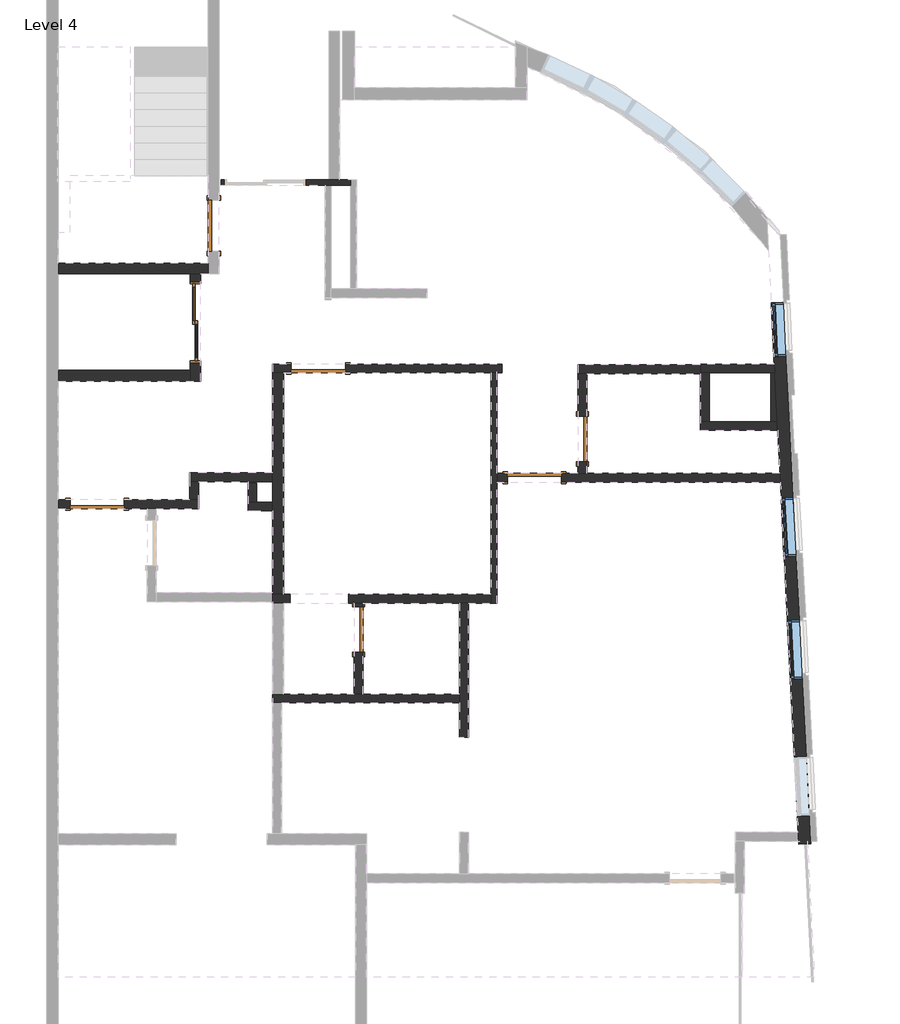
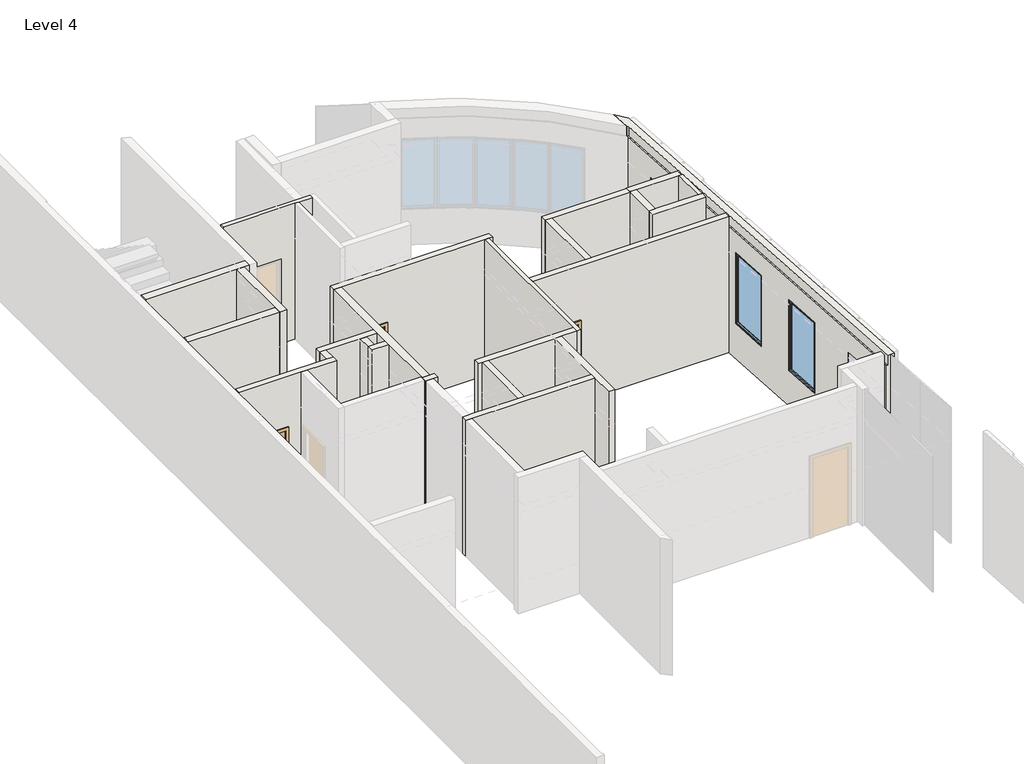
# One storey, part 3 of 5: 25 walls, 7 doors, 3 windows.
"""IFC4 building model written with IfcOpenShell, lengths in millimetres."""

from ifc_helpers import new_model, si_unit, frame, origin, place, context, project, spatial, polyline, circle_curve, outline, extrude, faceted_brep, transform, mapped, element, save
from ifc_brep_helpers import plane_surface, cylinder_surface, revolved_surface, advanced_brep
from components import m_single_flush_0762_x_2134mm_1533e4c5, m_single_flush_0762_x_2134mm_8c18b9de, m_single_flush_0864_x_2032mm_7823a673, m_single_flush_0915_x_2032mm_11c03dd0, m_single_flush_0915_x_2134mm_138fd904, sliding_door_2_panel_aus_f73f6a40, m_fixed_0915_x_1830mm_5d6e8bc1, m_fixed_1000_x_1830mm_2_3397196e

model = new_model("IFC4")

# Units and contexts
model_context = context("Model", 3, world=origin())
ifc_project = project(units=[si_unit("LENGTHUNIT", "METRE", prefix="MILLI")], contexts=[model_context])

# Site, building, storey
site = spatial("IfcSite", under=ifc_project)
building = spatial("IfcBuilding", under=site)
storey = spatial("IfcBuildingStorey", under=building, Name="Level 4", Elevation=15000.0)

# Doors
placement = place(None, origin())
m_single_flush_0762_x_2134mm_shape = m_single_flush_0762_x_2134mm_1533e4c5(model_context)
element("IfcDoor", 1, ObjectType="M_Single-Flush : 0762 x 2134mm", at=placement, inside=storey, context=model_context, shape_type="MappedRepresentation", body=[
    mapped(m_single_flush_0762_x_2134mm_shape, transform((8794.9578779, 5730.2927029, 15000.0), x_axis=(0.0, -1.0, 0.0), y_axis=(1.0, 0.0, 0.0), z_axis=(0.0, 0.0, 1.0))),
])
m_single_flush_0762_x_2134mm_2_shape = m_single_flush_0762_x_2134mm_8c18b9de(model_context)
element("IfcDoor", 2, ObjectType="M_Single-Flush : 0762 x 2134mm", at=placement, inside=storey, context=model_context, shape_type="MappedRepresentation", body=[
    mapped(m_single_flush_0762_x_2134mm_2_shape, transform((5014.9578779, 2515.8778064, 15000.0), x_axis=(0.0, 1.0, 0.0), y_axis=(-1.0, 0.0, 0.0), z_axis=(0.0, 0.0, 1.0))),
])
m_single_flush_0864_x_2032mm_shape = m_single_flush_0864_x_2032mm_7823a673(model_context)
element("IfcDoor", 3, ObjectType="M_Single-Flush : 0864 x 2032mm", at=placement, inside=storey, context=model_context, shape_type="MappedRepresentation", body=[
    mapped(m_single_flush_0864_x_2032mm_shape, transform((2571.8607589, 9328.8748746, 15000.0), x_axis=(0.0, -1.0, 0.0), y_axis=(1.0, 0.0, 0.0), z_axis=(0.0, 0.0, 1.0))),
])
m_single_flush_0915_x_2032mm_shape = m_single_flush_0915_x_2032mm_11c03dd0(model_context)
element("IfcDoor", 4, ObjectType="M_Single-Flush : 0915 x 2032mm", at=placement, inside=storey, context=model_context, shape_type="MappedRepresentation", body=[
    mapped(m_single_flush_0915_x_2032mm_shape, transform((7987.4578779, 5074.2927029, 15000.0), x_axis=(-1.0, 0.0, 0.0), y_axis=(0.0, -1.0, 0.0), z_axis=(0.0, 0.0, 1.0))),
])
m_single_flush_0915_x_2134mm_shape = m_single_flush_0915_x_2134mm_138fd904(model_context)
element("IfcDoor", 5, ObjectType="M_Single-Flush : 0915 x 2134mm", at=placement, inside=storey, context=model_context, shape_type="MappedRepresentation", body=[
    mapped(m_single_flush_0915_x_2134mm_shape, transform((607.4578696, 4631.8830582, 15000.0), x_axis=(-1.0, 0.0, 0.0), y_axis=(0.0, -1.0, 0.0), z_axis=(0.0, 0.0, 1.0))),
])
element("IfcDoor", 6, ObjectType="M_Single-Flush : 0915 x 2134mm", at=placement, inside=storey, context=model_context, shape_type="MappedRepresentation", body=[
    mapped(m_single_flush_0915_x_2134mm_shape, transform((4337.4578779, 6919.2927825, 15000.0), x_axis=(-1.0, 0.0, 0.0), y_axis=(0.0, -1.0, 0.0), z_axis=(0.0, 0.0, 1.0))),
])
sliding_door_2_panel_aus_shape = sliding_door_2_panel_aus_f73f6a40(model_context)
element("IfcDoor", 7, ObjectType="Sliding Door - 2 Panel (AUS) : elavator door", at=placement, inside=storey, context=model_context, shape_type="MappedRepresentation", body=[
    mapped(sliding_door_2_panel_aus_shape, transform((2260.0654712, 7782.6328884, 15000.0), x_axis=(0.0, -1.0, 0.0), y_axis=(1.0, 0.0, 0.0), z_axis=(0.0, 0.0, 1.0))),
])

# Walls
element("IfcWall", 8, ObjectType="Generic - 15cm-granit&gypsum", at=placement, inside=storey, context=model_context, shape_type="SweptSolid", body=[
    extrude(outline(polyline([(5349.2927029, 17134.0), (5349.2927029, 15000.0), (5149.2927029, 15000.0), (5149.2927029, 18500.0), (6830.3684627, 18500.0), (6830.3684627, 15000.0), (6111.2927029, 15000.0), (6111.2927029, 17134.0), (5349.2927029, 17134.0)])), frame((8719.9578779, 0.0, 0.0), z_axis=(1.0, 0.0, 0.0), x_axis=(0.0, 1.0, 0.0)), (0.0, 0.0, 1.0), 150.0),
])
element("IfcWall", 9, ObjectType="Generic - 15cm-gypsu-2boith", at=placement, inside=storey, context=model_context, shape_type="Brep", body=[
    faceted_brep([(12034.2942913, 6994.2927825, 15000.0), (10782.6929286, 6994.2927825, 15000.0), (10782.6929286, 6994.2927825, 18500.0), (12034.2942913, 6994.2927825, 18500.0), (12041.9294162, 6844.2927825, 15000.0), (12041.9294162, 6844.2927825, 18500.0), (11974.9265269, 6844.2927825, 18500.0), (10938.049349, 6844.2927825, 18500.0), (10788.049349, 6844.2927825, 18500.0), (10782.6929286, 6844.2927825, 18500.0), (10782.6929286, 6844.2927825, 15000.0), (10788.049349, 6844.2927825, 15000.0), (10938.049349, 6844.2927825, 15000.0), (11974.9265269, 6844.2927825, 15000.0), (10782.6929286, 6980.3684627, 15000.0), (10782.6929286, 6980.3684627, 18500.0)], [[[0, 1, 2, 3]], [[4, 5, 6, 7, 8, 9, 10, 11, 12, 13]], [[1, 0, 4, 13, 12, 11, 10, 14]], [[2, 1, 14, 10, 9, 15]], [[3, 2, 15, 9, 8, 7, 6, 5]], [[0, 3, 5, 4]]]),
])
element("IfcWall", 10, ObjectType="Generic - 15cm-granit&gypsum", at=placement, inside=storey, context=model_context, shape_type="Brep", body=[
    faceted_brep([(7529.9578779, 5149.2927029, 17032.0), (7529.9578779, 5149.2927029, 15000.0), (7349.9578779, 5149.2927029, 15000.0), (7349.9578779, 5149.2927029, 18500.0), (8719.9578779, 5149.2927029, 18500.0), (8869.9578779, 5149.2927029, 18500.0), (12128.2063311, 5149.2927029, 18500.0), (12128.2063311, 5149.2927029, 15000.0), (8869.9578779, 5149.2927029, 15000.0), (8719.9578779, 5149.2927029, 15000.0), (8444.9578779, 5149.2927029, 15000.0), (8444.9578779, 5149.2927029, 17032.0), (7349.9578779, 4999.2927029, 15000.0), (7529.9578779, 4999.2927029, 15000.0), (7529.9578779, 4999.2927029, 17032.0), (8444.9578779, 4999.2927029, 17032.0), (8444.9578779, 4999.2927029, 15000.0), (12135.8414559, 4999.2927029, 15000.0), (12135.8414559, 4999.2927029, 18500.0), (7349.9578779, 4999.2927029, 18500.0)], [[[0, 1, 2, 3, 4, 5, 6, 7, 8, 9, 10, 11]], [[12, 13, 14, 15, 16, 17, 18, 19]], [[2, 1, 13, 12]], [[10, 9, 8, 7, 17, 16]], [[6, 5, 4, 3, 19, 18]], [[7, 6, 18, 17]], [[3, 2, 12, 19]], [[14, 13, 1, 0]], [[15, 14, 0, 11]], [[16, 15, 11, 10]]]),
])
element("IfcWall", 11, ObjectType="Generic - 10cm-gypsu-2boith", at=placement, inside=storey, context=model_context, shape_type="Brep", body=[
    faceted_brep([(7249.9578779, 6844.2927825, 15000.0), (7249.9578779, 3106.8778064, 15000.0), (7249.9578779, 2956.8778064, 15000.0), (7249.9578779, 2956.8778064, 18500.0), (7249.9578779, 3106.8778064, 18500.0), (7249.9578779, 6844.2927825, 18500.0), (7349.9578779, 6844.2927825, 15000.0), (7349.9578779, 6844.2927825, 18500.0), (7349.9578779, 5149.2927029, 18500.0), (7349.9578779, 4999.2927029, 18500.0), (7349.9578779, 2956.8778064, 18500.0), (7349.9578779, 2956.8778064, 15000.0), (7349.9578779, 4999.2927029, 15000.0), (7349.9578779, 5149.2927029, 15000.0)], [[[0, 1, 2, 3, 4, 5]], [[6, 7, 8, 9, 10, 11, 12, 13]], [[2, 1, 0, 6, 13, 12, 11]], [[5, 4, 3, 10, 9, 8, 7]], [[3, 2, 11, 10]], [[0, 5, 7, 6]]]),
])
element("IfcWall", 12, ObjectType="Generic - 15cm-granit&gypsum", at=placement, inside=storey, context=model_context, shape_type="Brep", body=[
    faceted_brep([(7249.9578779, 3106.8778064, 15000.0), (4849.9578779, 3106.8778064, 15000.0), (4849.9578779, 3106.8778064, 18500.0), (7249.9578779, 3106.8778064, 18500.0), (7249.9578779, 2956.8778064, 15000.0), (7249.9578779, 2956.8778064, 18500.0), (6869.9578779, 2956.8778064, 18500.0), (6719.9578779, 2956.8778064, 18500.0), (5089.9578779, 2956.8778064, 18500.0), (4939.9578779, 2956.8778064, 18500.0), (4849.9578779, 2956.8778064, 18500.0), (4849.9578779, 2956.8778064, 15000.0), (4939.9578779, 2956.8778064, 15000.0), (5089.9578779, 2956.8778064, 15000.0), (6719.9578779, 2956.8778064, 15000.0), (6869.9578779, 2956.8778064, 15000.0)], [[[0, 1, 2, 3]], [[4, 5, 6, 7, 8, 9, 10, 11, 12, 13, 14, 15]], [[1, 0, 4, 15, 14, 13, 12, 11]], [[2, 1, 11, 10]], [[3, 2, 10, 9, 8, 7, 6, 5]], [[0, 3, 5, 4]]]),
])
element("IfcWall", 13, ObjectType="Generic - 15cm-granit&gypsum", at=placement, inside=storey, context=model_context, shape_type="Brep", body=[
    faceted_brep([(6719.9578779, 1426.8778064, 15000.0), (5089.9578779, 1426.8778064, 15000.0), (4939.9578779, 1426.8778064, 15000.0), (3749.9578779, 1426.8778064, 15000.0), (3569.9578779, 1426.8778064, 15000.0), (3569.9578779, 1426.8778064, 18500.0), (3749.9578779, 1426.8778064, 18500.0), (4939.9578779, 1426.8778064, 18500.0), (5089.9578779, 1426.8778064, 18500.0), (6719.9578779, 1426.8778064, 18500.0), (6719.9578779, 1276.8778064, 15000.0), (6719.9578779, 1276.8778064, 18500.0), (3719.9578779, 1276.8778064, 18500.0), (3569.9578779, 1276.8778064, 18500.0), (3569.9578779, 1276.8778064, 15000.0), (3719.9578779, 1276.8778064, 15000.0)], [[[0, 1, 2, 3, 4, 5, 6, 7, 8, 9]], [[10, 11, 12, 13, 14, 15]], [[4, 3, 2, 1, 0, 10, 15, 14]], [[9, 8, 7, 6, 5, 13, 12, 11]], [[0, 9, 11, 10]], [[5, 4, 14, 13]]]),
])
element("IfcWall", 14, ObjectType="Generic - 15cm-granit&gypsum", at=placement, inside=storey, context=model_context, shape_type="Brep", body=[
    faceted_brep([(6719.9578779, 2956.8778064, 15000.0), (6719.9578779, 1426.8778064, 15000.0), (6719.9578779, 1276.8778064, 15000.0), (6719.9578779, 696.0452702, 15000.0), (6719.9578779, 696.0452702, 18500.0), (6719.9578779, 1276.8778064, 18500.0), (6719.9578779, 1426.8778064, 18500.0), (6719.9578779, 2956.8778064, 18500.0), (6869.9578779, 2956.8778064, 15000.0), (6869.9578779, 2956.8778064, 18500.0), (6869.9578779, 696.0452702, 18500.0), (6869.9578779, 696.0452702, 15000.0)], [[[0, 1, 2, 3, 4, 5, 6, 7]], [[8, 9, 10, 11]], [[3, 2, 1, 0, 8, 11]], [[4, 3, 11, 10]], [[7, 6, 5, 4, 10, 9]], [[0, 7, 9, 8]]]),
])
element("IfcWall", 15, ObjectType="Generic - 18cm-gypsu-2boith 2", at=placement, inside=storey, context=model_context, shape_type="Brep", body=[
    faceted_brep([(3569.9578779, 6844.2927825, 15000.0), (3569.9578779, 5156.8860701, 15000.0), (3569.9578779, 5006.8860701, 15000.0), (3569.9578779, 4666.8864855, 15000.0), (3569.9578779, 4516.8864855, 15000.0), (3569.9578779, 3106.8778064, 15000.0), (3569.9578779, 3106.8778064, 18500.0), (3569.9578779, 4516.8864855, 18500.0), (3569.9578779, 4666.8864855, 18500.0), (3569.9578779, 5006.8860701, 18500.0), (3569.9578779, 5156.8860701, 18500.0), (3569.9578779, 6844.2927825, 18500.0), (3749.9578779, 6844.2927825, 15000.0), (3749.9578779, 6844.2927825, 18500.0), (3749.9578779, 3106.8778064, 18500.0), (3749.9578779, 3106.8778064, 15000.0)], [[[0, 1, 2, 3, 4, 5, 6, 7, 8, 9, 10, 11]], [[12, 13, 14, 15]], [[5, 4, 3, 2, 1, 0, 12, 15]], [[11, 10, 9, 8, 7, 6, 14, 13]], [[6, 5, 15, 14]], [[0, 11, 13, 12]]]),
])
element("IfcWall", 16, ObjectType="Generic - 10cm-gypsu-2boith", at=placement, inside=storey, context=model_context, shape_type="Brep", body=[
    faceted_brep([(2699.9587442, 10106.8748959, 15000.0), (2699.9587442, 10106.8748959, 18500.0), (4519.9587688, 10106.8748959, 18500.0), (4699.9587688, 10106.8748959, 18500.0), (4879.9402277, 10106.8748959, 18500.0), (4879.9402277, 10106.8748959, 15000.0), (4699.9587688, 10106.8748959, 15000.0), (4519.9587688, 10106.8748959, 15000.0), (4129.6769958, 10106.8748959, 15000.0), (4129.6769958, 10106.8748959, 17183.0), (2749.6769958, 10106.8748959, 17183.0), (2749.6769958, 10106.8748959, 15000.0), (2699.9587442, 10006.8748959, 18500.0), (2699.9587442, 10006.8748959, 15000.0), (2749.6769958, 10006.8748959, 15000.0), (2749.6769958, 10006.8748959, 17183.0), (4129.6769958, 10006.8748959, 17183.0), (4129.6769958, 10006.8748959, 15000.0), (4449.2779066, 10006.8748959, 15000.0), (4549.2779066, 10006.8748959, 15000.0), (4879.9402277, 10006.8748959, 15000.0), (4879.9402277, 10006.8748959, 18500.0), (4549.2779066, 10006.8748959, 18500.0), (4449.2779066, 10006.8748959, 18500.0)], [[[0, 1, 2, 3, 4, 5, 6, 7, 8, 9, 10, 11]], [[12, 13, 14, 15, 16, 17, 18, 19, 20, 21, 22, 23]], [[13, 0, 11, 14]], [[5, 20, 19, 18, 17, 8, 7, 6]], [[1, 0, 13, 12]], [[4, 3, 2, 1, 12, 23, 22, 21]], [[5, 4, 21, 20]], [[16, 9, 8, 17]], [[9, 16, 15, 10]], [[10, 15, 14, 11]]]),
])
element("IfcWall", 17, ObjectType="Generic - 18cm-gypsu-2boith 2", at=placement, inside=storey, context=model_context, shape_type="SweptSolid", body=[
    extrude(outline(polyline([(-50.0421304, 8696.8748746), (2481.8607589, 8696.8748746), (2481.8607589, 8516.8748746), (-50.0421304, 8516.8748746), (-50.0421304, 8696.8748746)])), frame((0.0, 0.0, 15000.0), z_axis=(0.0, 0.0, 1.0), x_axis=(1.0, 0.0, 0.0)), (0.0, 0.0, 1.0), 3500.0),
])
element("IfcWall", 18, ObjectType="Generic - 18cm-gypsu-2boith 2", at=placement, inside=storey, context=model_context, shape_type="Brep", body=[
    faceted_brep([(2170.0654712, 6706.8748838, 18500.0), (2170.0654712, 6886.8748838, 18500.0), (2170.0654712, 8506.8748906, 18500.0), (2170.0654712, 8506.8748906, 15000.0), (2170.0654712, 8386.8748872, 15000.0), (2170.0654712, 8386.8748872, 17183.0), (2170.0654712, 7006.8748872, 17183.0), (2170.0654712, 7006.8748872, 15000.0), (2170.0654712, 6886.8748838, 15000.0), (2170.0654712, 6706.8748838, 15000.0), (2350.0654712, 8506.8748906, 18500.0), (2350.0654712, 6706.8748838, 18500.0), (2350.0654712, 6706.8748838, 15000.0), (2350.0654712, 7006.8748872, 15000.0), (2350.0654712, 7006.8748872, 17183.0), (2350.0654712, 8386.8748872, 17183.0), (2350.0654712, 8386.8748872, 15000.0), (2350.0654712, 8506.8748906, 15000.0)], [[[0, 1, 2, 3, 4, 5, 6, 7, 8, 9]], [[10, 11, 12, 13, 14, 15, 16, 17]], [[3, 17, 16, 4]], [[12, 9, 8, 7, 13]], [[2, 1, 0, 11, 10]], [[3, 2, 10, 17]], [[0, 9, 12, 11]], [[15, 5, 4, 16]], [[5, 15, 14, 6]], [[6, 14, 13, 7]]]),
])
element("IfcWall", 19, ObjectType="Generic - 18cm-gypsu-2boith 2", at=placement, inside=storey, context=model_context, shape_type="SweptSolid", body=[
    extrude(outline(polyline([(-50.0421304, 6886.8748838), (2170.0654712, 6886.8748838), (2170.0654712, 6706.8748838), (-50.0421304, 6706.8748838), (-50.0421304, 6886.8748838)])), frame((0.0, 0.0, 15000.0), z_axis=(0.0, 0.0, 1.0), x_axis=(1.0, 0.0, 0.0)), (0.0, 0.0, 1.0), 3500.0),
])
element("IfcWall", 20, ObjectType="Generic - 15cm-granit&gypsum", at=placement, inside=storey, context=model_context, shape_type="Brep", body=[
    faceted_brep([(12077.3702251, 6025.0705769, 15000.0), (12074.9265269, 6025.0705769, 15000.0), (11974.9265269, 6025.0705769, 15000.0), (10938.049349, 6025.0705769, 15000.0), (10788.049349, 6025.0705769, 15000.0), (10788.049349, 6025.0705769, 18500.0), (10938.049349, 6025.0705769, 18500.0), (11974.9265269, 6025.0705769, 18500.0), (12074.9265269, 6025.0705769, 18500.0), (12077.3702251, 6025.0705769, 18500.0), (12077.3702251, 5875.0705769, 15000.0), (12077.3702251, 5875.0705769, 18500.0), (10788.049349, 5875.0705769, 18500.0), (10788.049349, 5875.0705769, 15000.0)], [[[0, 1, 2, 3, 4, 5, 6, 7, 8, 9]], [[10, 11, 12, 13]], [[4, 3, 2, 1, 0, 10, 13]], [[9, 8, 7, 6, 5, 12, 11]], [[0, 9, 11, 10]], [[5, 4, 13, 12]]]),
])
element("IfcWall", 21, ObjectType="Generic - 15cm-granit&gypsum", at=placement, inside=storey, context=model_context, shape_type="SweptSolid", body=[
    extrude(outline(polyline([(10938.049349, 6844.2927825), (10938.049349, 6025.0705769), (10788.049349, 6025.0705769), (10788.049349, 6844.2927825), (10938.049349, 6844.2927825)])), frame((0.0, 0.0, 15000.0), z_axis=(0.0, 0.0, 1.0), x_axis=(1.0, 0.0, 0.0)), (0.0, 0.0, 1.0), 3500.0),
])
element("IfcWall", 22, ObjectType="Generic - 10cm-gypsu-2boith", at=placement, inside=storey, context=model_context, shape_type="Brep", body=[
    faceted_brep([(12074.9265269, 6025.0705769, 15000.0), (12074.9265269, 6844.2927825, 15000.0), (12074.9265269, 6844.2927825, 18500.0), (12074.9265269, 6025.0705769, 18500.0), (11974.9265269, 6025.0705769, 15000.0), (11974.9265269, 6025.0705769, 18500.0), (11974.9265269, 6844.2927825, 18500.0), (11974.9265269, 6844.2927825, 15000.0), (12041.9294162, 6844.2927825, 15000.0), (12041.9294162, 6844.2927825, 18500.0)], [[[0, 1, 2, 3]], [[4, 5, 6, 7]], [[1, 0, 4, 7, 8]], [[3, 2, 9, 6, 5]], [[0, 3, 5, 4]], [[2, 1, 8, 7, 6, 9]]]),
])
element("IfcWall", 23, ObjectType="Generic - 15cm-granit&gypsum", at=placement, inside=storey, context=model_context, shape_type="SweptSolid", body=[
    extrude(outline(polyline([(2956.8778064, 15000.0), (2896.8778064, 15000.0), (2896.8778064, 17134.0), (2134.8778064, 17134.0), (2134.8778064, 15000.0), (1426.8778064, 15000.0), (1426.8778064, 18500.0), (2956.8778064, 18500.0), (2956.8778064, 15000.0)])), frame((4939.9578779, 0.0, 0.0), z_axis=(1.0, 0.0, 0.0), x_axis=(0.0, 1.0, 0.0)), (0.0, 0.0, 1.0), 150.0),
])
element("IfcWall", 24, ObjectType="Generic - 15cm-granit&gypsum", at=placement, inside=storey, context=model_context, shape_type="Brep", body=[
    faceted_brep([(-50.0421304, 4556.8830582, 15000.0), (149.9578696, 4556.8830582, 15000.0), (149.9578696, 4556.8830582, 17134.0), (1064.9578696, 4556.8830582, 17134.0), (1064.9578696, 4556.8830582, 15000.0), (1449.9578776, 4556.8830582, 15000.0), (1599.9578776, 4556.8830582, 15000.0), (2319.9578779, 4556.8830582, 15000.0), (2319.9578779, 4556.8830582, 18500.0), (1599.9578776, 4556.8830582, 18500.0), (1449.9578776, 4556.8830582, 18500.0), (-50.0421304, 4556.8830582, 18500.0), (149.9578696, 4706.8830582, 17134.0), (149.9578696, 4706.8830582, 15000.0), (-50.0421304, 4706.8830582, 15000.0), (-50.0421304, 4706.8830582, 18500.0), (2169.9578779, 4706.8830582, 18500.0), (2319.9578779, 4706.8830582, 18500.0), (2319.9578779, 4706.8830582, 15000.0), (2169.9578779, 4706.8830582, 15000.0), (1064.9578696, 4706.8830582, 15000.0), (1064.9578696, 4706.8830582, 17134.0)], [[[0, 1, 2, 3, 4, 5, 6, 7, 8, 9, 10, 11]], [[12, 13, 14, 15, 16, 17, 18, 19, 20, 21]], [[14, 13, 1, 0]], [[20, 19, 18, 7, 6, 5, 4]], [[11, 10, 9, 8, 17, 16, 15]], [[0, 11, 15, 14]], [[8, 7, 18, 17]], [[2, 1, 13, 12]], [[3, 2, 12, 21]], [[4, 3, 21, 20]]]),
])
element("IfcWall", 25, ObjectType="Generic - 15cm-granit&gypsum", at=placement, inside=storey, context=model_context, shape_type="Brep", body=[
    faceted_brep([(2169.9578779, 5006.8860701, 15000.0), (2319.9578779, 5006.8860701, 15000.0), (3569.9578779, 5006.8860701, 15000.0), (3569.9578779, 5006.8860701, 18500.0), (2319.9578779, 5006.8860701, 18500.0), (2169.9578779, 5006.8860701, 18500.0), (2169.9578779, 5156.8860701, 15000.0), (2169.9578779, 5156.8860701, 18500.0), (3569.9578779, 5156.8860701, 18500.0), (3569.9578779, 5156.8860701, 15000.0)], [[[0, 1, 2, 3, 4, 5]], [[6, 7, 8, 9]], [[2, 1, 0, 6, 9]], [[5, 4, 3, 8, 7]], [[0, 5, 7, 6]], [[3, 2, 9, 8]]]),
])
element("IfcWall", 26, ObjectType="Generic - 15cm-granit&gypsum", at=placement, inside=storey, context=model_context, shape_type="SweptSolid", body=[
    extrude(outline(polyline([(2319.9578779, 5006.8860701), (2319.9578779, 4706.8830582), (2169.9578779, 4706.8830582), (2169.9578779, 5006.8860701), (2319.9578779, 5006.8860701)])), frame((0.0, 0.0, 15000.0), z_axis=(0.0, 0.0, 1.0), x_axis=(1.0, 0.0, 0.0)), (0.0, 0.0, 1.0), 3500.0),
])
element("IfcWall", 27, ObjectType="Generic - 15cm-granit&gypsum", at=placement, inside=storey, context=model_context, shape_type="Brep", body=[
    faceted_brep([(3149.9574416, 4516.8864855, 15000.0), (3569.9578779, 4516.8864855, 15000.0), (3569.9578779, 4516.8864855, 18500.0), (3149.9574416, 4516.8864855, 18500.0), (3149.9574416, 4666.8864855, 15000.0), (3149.9574416, 4666.8864855, 18500.0), (3299.9574416, 4666.8864855, 18500.0), (3569.9578779, 4666.8864855, 18500.0), (3569.9578779, 4666.8864855, 15000.0), (3299.9574416, 4666.8864855, 15000.0)], [[[0, 1, 2, 3]], [[4, 5, 6, 7, 8, 9]], [[1, 0, 4, 9, 8]], [[3, 2, 7, 6, 5]], [[2, 1, 8, 7]], [[0, 3, 5, 4]]]),
])
element("IfcWall", 28, ObjectType="Generic - 15cm-granit&gypsum", at=placement, inside=storey, context=model_context, shape_type="SweptSolid", body=[
    extrude(outline(polyline([(3149.9574416, 4666.8864855), (3149.9574416, 4986.8860701), (3299.9574416, 4986.8860701), (3299.9574416, 4666.8864855), (3149.9574416, 4666.8864855)])), frame((0.0, 0.0, 15000.0), z_axis=(0.0, 0.0, 1.0), x_axis=(1.0, 0.0, 0.0)), (0.0, 0.0, 1.0), 3500.0),
])
element("IfcWall", 29, ObjectType="Generic - 15cm-gypsu-2boith", at=placement, inside=storey, context=model_context, shape_type="Brep", body=[
    faceted_brep([(3879.9578779, 6994.2927825, 17134.0), (3879.9578779, 6994.2927825, 15000.0), (3569.9578779, 6994.2927825, 15000.0), (3569.9578779, 6994.2927825, 18500.0), (7439.9578779, 6994.2927825, 18500.0), (7439.9578779, 6994.2927825, 15000.0), (4794.9578779, 6994.2927825, 15000.0), (4794.9578779, 6994.2927825, 17134.0), (3569.9578779, 6844.2927825, 15000.0), (3749.9578779, 6844.2927825, 15000.0), (3879.9578779, 6844.2927825, 15000.0), (3879.9578779, 6844.2927825, 17134.0), (4794.9578779, 6844.2927825, 17134.0), (4794.9578779, 6844.2927825, 15000.0), (7249.9578779, 6844.2927825, 15000.0), (7349.9578779, 6844.2927825, 15000.0), (7439.9578779, 6844.2927825, 15000.0), (7439.9578779, 6844.2927825, 18500.0), (7349.9578779, 6844.2927825, 18500.0), (7249.9578779, 6844.2927825, 18500.0), (3749.9578779, 6844.2927825, 18500.0), (3569.9578779, 6844.2927825, 18500.0)], [[[0, 1, 2, 3, 4, 5, 6, 7]], [[8, 9, 10, 11, 12, 13, 14, 15, 16, 17, 18, 19, 20, 21]], [[6, 5, 16, 15, 14, 13]], [[2, 1, 10, 9, 8]], [[4, 3, 21, 20, 19, 18, 17]], [[5, 4, 17, 16]], [[11, 10, 1, 0]], [[12, 11, 0, 7]], [[13, 12, 7, 6]], [[3, 2, 8, 21]]]),
])
element("IfcWall", 30, ObjectType="Generic - 15cm-granit&gypsum", at=placement, inside=storey, context=model_context, shape_type="Brep", body=[
    faceted_brep([(8719.9578779, 6830.3684627, 15000.0), (8869.9578779, 6830.3684627, 15000.0), (10782.6929286, 6830.3684627, 15000.0), (10782.6929286, 6830.3684627, 18500.0), (8869.9578779, 6830.3684627, 18500.0), (8719.9578779, 6830.3684627, 18500.0), (8719.9578779, 6980.3684627, 15000.0), (8719.9578779, 6980.3684627, 18500.0), (10782.6929286, 6980.3684627, 18500.0), (10782.6929286, 6980.3684627, 15000.0), (10782.6929286, 6844.2927825, 15000.0), (10782.6929286, 6844.2927825, 18500.0)], [[[0, 1, 2, 3, 4, 5]], [[6, 7, 8, 9]], [[2, 1, 0, 6, 9, 10]], [[3, 2, 10, 9, 8, 11]], [[5, 4, 3, 11, 8, 7]], [[0, 5, 7, 6]]]),
])
element("IfcWall", 31, ObjectType="Generic - 15cm-granit&gypsum", at=placement, inside=storey, context=model_context, shape_type="Brep", body=[
    faceted_brep([(3859.9578779, 3106.8778064, 15000.0), (3749.9578779, 3106.8778064, 15000.0), (3569.9578779, 3106.8778064, 15000.0), (3569.9578779, 3106.8778064, 18500.0), (3749.9578779, 3106.8778064, 18500.0), (3859.9578779, 3106.8778064, 18500.0), (3859.9578779, 2956.8778064, 15000.0), (3859.9578779, 2956.8778064, 18500.0), (3749.9578779, 2956.8778064, 18500.0), (3569.9578779, 2956.8778064, 18500.0), (3569.9578779, 2956.8778064, 15000.0), (3749.9578779, 2956.8778064, 15000.0)], [[[0, 1, 2, 3, 4, 5]], [[6, 7, 8, 9, 10, 11]], [[2, 1, 0, 6, 11, 10]], [[5, 4, 3, 9, 8, 7]], [[0, 5, 7, 6]], [[3, 2, 10, 9]]]),
])
element("IfcWall", 32, ObjectType="Generic - 20cm-gypsum", at=placement, inside=storey, context=model_context, shape_type="AdvancedBrep", body=[
    advanced_brep(
    [(11908.3121492, 9469.3435074, 15000.0), (11936.5482631, 8914.6155682, 15000.0), (12034.2942913, 6994.2927825, 15000.0), (12041.9294162, 6844.2927825, 15000.0), (12128.2063311, 5149.2927029, 15000.0), (12135.8414559, 4999.2927029, 15000.0), (12446.8232818, -1110.2699756, 15000.0), (12446.8232818, -1110.2699756, 18259.0), (11936.5482631, 8914.6155682, 18259.0), (11933.8152789, 8968.3078963, 18259.0), (11933.8152789, 8968.3078963, 18500.0), (11908.3121492, 9469.3435074, 18500.0), (11908.3121492, 9469.3435074, 17745.0), (11910.4512496, 9427.3186475, 17745.0), (11910.4512496, 9427.3186475, 17695.0), (11908.3121492, 9469.3435074, 17695.0), (11908.3121492, 9469.3435074, 15925.0), (11910.4512496, 9427.3186475, 15925.0), (11910.4512496, 9427.3186475, 15875.0), (11908.3121492, 9469.3435074, 15875.0), (12422.6623613, -635.6034658, 15900.0), (12371.8273404, 363.1035987, 15900.0), (12371.8273404, 363.1035987, 17730.0), (12422.6623613, -635.6034658, 17730.0), (12305.2334631, 1671.4098532, 15900.0), (12254.3984422, 2670.1169177, 15900.0), (12254.3984422, 2670.1169177, 17730.0), (12305.2334631, 1671.4098532, 17730.0), (12200.0049698, 3738.7334766, 15900.0), (12149.1699489, 4737.4405411, 15900.0), (12149.1699489, 4737.4405411, 17730.0), (12200.0049698, 3738.7334766, 17730.0), (12028.2494319, 7113.0503572, 15900.0), (11981.7353878, 8026.8673212, 15900.0), (11981.7353878, 8026.8673212, 17730.0), (12028.2494319, 7113.0503572, 17730.0), (12646.5646947, -1100.1029714, 15000.0), (12122.2974145, 9199.675158, 15000.0), (12122.2974145, 9199.675158, 15875.0), (12124.5482533, 9155.45508, 15875.0), (12124.5482533, 9155.45508, 15925.0), (12122.2974145, 9199.675158, 15925.0), (12122.2974145, 9199.675158, 17695.0), (12124.5482533, 9155.45508, 17695.0), (12124.5482533, 9155.45508, 17745.0), (12122.2974145, 9199.675158, 17745.0), (12122.2974145, 9199.675158, 18500.0), (12646.5646947, -1100.1029714, 18500.0), (12571.5687533, 373.2706029, 15900.0), (12622.4037742, -625.4364616, 15900.0), (12622.4037742, -625.4364616, 17730.0), (12571.5687533, 373.2706029, 17730.0), (12454.1398551, 2680.2839218, 15900.0), (12504.974876, 1681.5768573, 15900.0), (12504.974876, 1681.5768573, 17730.0), (12454.1398551, 2680.2839218, 17730.0), (12348.9113618, 4747.6075453, 15900.0), (12399.7463827, 3748.9004808, 15900.0), (12399.7463827, 3748.9004808, 17730.0), (12348.9113618, 4747.6075453, 17730.0), (12181.4768007, 8037.0343254, 15900.0), (12227.9908448, 7123.2173614, 15900.0), (12227.9908448, 7123.2173614, 17730.0), (12181.4768007, 8037.0343254, 17730.0), (12476.7844937, -1108.7449249, 18500.0), (12476.7844937, -1108.7449249, 18259.0), (11966.0468245, 8925.2298708, 18500.0), (11966.0468245, 8925.2298708, 18259.0)],
    [
        (0, 1),
        (1, 2),
        (2, 3),
        (3, 4),
        (4, 5),
        (5, 6),
        (6, 7),
        (7, 8),
        (8, 9),
        (9, 10),
        (10, 11),
        (11, 12),
        (12, 13),
        (13, 14),
        (14, 15),
        (15, 16),
        (16, 17),
        (17, 18),
        (18, 19),
        (19, 0),
        (20, 21),
        (21, 22),
        (22, 23),
        (23, 20),
        (24, 25),
        (25, 26),
        (26, 27),
        (27, 24),
        (28, 29),
        (29, 30),
        (30, 31),
        (31, 28),
        (32, 33),
        (33, 34),
        (34, 35),
        (35, 32),
        (36, 37),
        (37, 38),
        (38, 39),
        (39, 40),
        (40, 41),
        (41, 42),
        (42, 43),
        (43, 44),
        (44, 45),
        (45, 46),
        (46, 47),
        (47, 36),
        (48, 49),
        (49, 50),
        (50, 51),
        (51, 48),
        (52, 53),
        (53, 54),
        (54, 55),
        (55, 52),
        (56, 57),
        (57, 58),
        (58, 59),
        (59, 56),
        (60, 61),
        (61, 62),
        (62, 63),
        (63, 60),
        (48, 21),
        (20, 49),
        (51, 22),
        (50, 23),
        (52, 25),
        (24, 53),
        (55, 26),
        (54, 27),
        (56, 29),
        (28, 57),
        (59, 30),
        (58, 31),
        (60, 33),
        (32, 61),
        (63, 34),
        (62, 35),
        (0, 37, circle_curve(frame((4535.6080259, 3399.2748166, 15000.0), z_axis=(0.0, 0.0, -1.0), x_axis=(0.7954529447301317, 0.6060153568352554, 0.0)), 9550.0)),
        (36, 6),
        (47, 64),
        (64, 65),
        (65, 7),
        (46, 11, circle_curve(frame((4535.6080259, 3399.2748166, 18500.0), z_axis=(0.0, 0.0, 1.0), x_axis=(0.7954529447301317, 0.6060153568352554, 0.0)), 9550.0)),
        (10, 66, circle_curve(frame((4535.6080259, 3399.2748166, 18500.0), z_axis=(0.0, 0.0, -1.0), x_axis=(1.0, 0.0, 0.0)), 9260.0)),
        (66, 64),
        (45, 12, circle_curve(frame((4535.6080259, 3399.2748166, 17745.0), z_axis=(0.0, 0.0, 1.0), x_axis=(0.7954529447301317, 0.6060153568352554, 0.0)), 9550.0)),
        (19, 38, circle_curve(frame((4535.6080259, 3399.2748166, 15875.0), z_axis=(0.0, 0.0, -1.0), x_axis=(0.7954529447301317, 0.6060153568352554, 0.0)), 9550.0)),
        (41, 16, circle_curve(frame((4535.6080259, 3399.2748166, 15925.0), z_axis=(0.0, 0.0, 1.0), x_axis=(0.7954529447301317, 0.6060153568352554, 0.0)), 9550.0)),
        (15, 42, circle_curve(frame((4535.6080259, 3399.2748166, 17695.0), z_axis=(0.0, 0.0, -1.0), x_axis=(0.7954529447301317, 0.6060153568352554, 0.0)), 9550.0)),
        (40, 17, circle_curve(frame((4535.6080259, 3399.2748166, 15925.0), z_axis=(0.0, 0.0, 1.0), x_axis=(0.32740306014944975, 0.9448847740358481, 0.0)), 9525.0)),
        (18, 39, circle_curve(frame((4535.6080259, 3399.2748166, 15875.0), z_axis=(0.0, 0.0, -1.0), x_axis=(0.32740306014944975, 0.9448847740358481, 0.0)), 9525.0)),
        (44, 13, circle_curve(frame((4535.6080259, 3399.2748166, 17745.0), z_axis=(0.0, 0.0, 1.0), x_axis=(0.7339562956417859, 0.6791966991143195, 0.0)), 9525.0)),
        (14, 43, circle_curve(frame((4535.6080259, 3399.2748166, 17695.0), z_axis=(0.0, 0.0, -1.0), x_axis=(0.7339562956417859, 0.6791966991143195, 0.0)), 9525.0)),
        (65, 67),
        (67, 9, circle_curve(frame((4535.6080259, 3399.2748166, 18259.0), z_axis=(0.0, 0.0, 1.0), x_axis=(1.0, 0.0, 0.0)), 9260.0)),
        (67, 66),
    ],
    [
        plane_surface(frame((11929.5360205, 9052.3783941, 15000.0), z_axis=(-0.9987070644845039, -0.05083502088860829, 0.0), x_axis=(0.05083502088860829, -0.9987070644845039, 0.0))),
        plane_surface(frame((12129.2774334, 9062.5453983, 15000.0), z_axis=(0.9987070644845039, 0.05083502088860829, 0.0), x_axis=(-0.05083502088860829, 0.9987070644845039, 0.0))),
        plane_surface(frame((12571.5687533, 373.2706029, 15900.0), z_axis=(0.0, 0.0, 1.0), x_axis=(-0.998707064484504, -0.050835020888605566, 0.0))),
        plane_surface(frame((12571.5687533, 373.2706029, 17730.0), z_axis=(0.050835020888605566, -0.998707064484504, 0.0), x_axis=(-0.998707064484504, -0.050835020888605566, 0.0))),
        plane_surface(frame((12622.4037742, -625.4364616, 17730.0), z_axis=(0.0, 0.0, -1.0), x_axis=(-0.998707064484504, -0.050835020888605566, 0.0))),
        plane_surface(frame((12622.4037742, -625.4364616, 15900.0), z_axis=(-0.050835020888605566, 0.998707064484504, 0.0), x_axis=(-0.998707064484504, -0.050835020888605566, 0.0))),
        plane_surface(frame((12454.1398551, 2680.2839218, 15900.0), z_axis=(0.0, 0.0, 1.0), x_axis=(-0.9987070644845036, -0.050835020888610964, 0.0))),
        plane_surface(frame((12454.1398551, 2680.2839218, 17730.0), z_axis=(0.050835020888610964, -0.9987070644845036, 0.0), x_axis=(-0.9987070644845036, -0.050835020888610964, 0.0))),
        plane_surface(frame((12504.974876, 1681.5768573, 17730.0), z_axis=(0.0, 0.0, -1.0), x_axis=(-0.998707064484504, -0.050835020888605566, 0.0))),
        plane_surface(frame((12504.974876, 1681.5768573, 15900.0), z_axis=(-0.050835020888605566, 0.998707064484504, 0.0), x_axis=(-0.998707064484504, -0.050835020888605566, 0.0))),
        plane_surface(frame((12348.9113618, 4747.6075453, 15900.0), z_axis=(0.0, 0.0, 1.0), x_axis=(-0.998707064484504, -0.050835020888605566, 0.0))),
        plane_surface(frame((12348.9113618, 4747.6075453, 17730.0), z_axis=(0.050835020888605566, -0.998707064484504, 0.0), x_axis=(-0.998707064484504, -0.050835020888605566, 0.0))),
        plane_surface(frame((12399.7463827, 3748.9004808, 17730.0), z_axis=(0.0, 0.0, -1.0), x_axis=(-0.998707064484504, -0.050835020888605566, 0.0))),
        plane_surface(frame((12399.7463827, 3748.9004808, 15900.0), z_axis=(-0.05083502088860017, 0.9987070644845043, 0.0), x_axis=(-0.9987070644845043, -0.05083502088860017, 0.0))),
        plane_surface(frame((12181.4768007, 8037.0343254, 15900.0), z_axis=(0.0, 0.0, 1.0), x_axis=(-0.998707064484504, -0.050835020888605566, 0.0))),
        plane_surface(frame((12181.4768007, 8037.0343254, 17730.0), z_axis=(0.050835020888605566, -0.998707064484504, 0.0), x_axis=(-0.998707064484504, -0.050835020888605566, 0.0))),
        plane_surface(frame((12227.9908448, 7123.2173614, 17730.0), z_axis=(0.0, 0.0, -1.0), x_axis=(-0.998707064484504, -0.050835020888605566, 0.0))),
        plane_surface(frame((12227.9908448, 7123.2173614, 15900.0), z_axis=(-0.050835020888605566, 0.998707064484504, 0.0), x_axis=(-0.998707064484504, -0.050835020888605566, 0.0))),
        plane_surface(frame((11929.5360205, 9052.3783941, 15000.0), z_axis=(0.0, 0.0, -1.0), x_axis=(0.9987070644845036, 0.050835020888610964, 0.0))),
        plane_surface(frame((12446.8232818, -1110.2699756, 15000.0), z_axis=(0.050835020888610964, -0.9987070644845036, 0.0), x_axis=(0.9987070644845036, 0.050835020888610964, 0.0))),
        plane_surface(frame((12446.8232818, -1110.2699756, 18500.0), z_axis=(0.0, 0.0, 1.0), x_axis=(0.9987070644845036, 0.050835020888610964, 0.0))),
        cylinder_surface(frame((4535.6080259, 3399.2748166, 15000.0), z_axis=(0.0, 0.0, 1.0), x_axis=(0.7954529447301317, 0.6060153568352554, 0.0)), 9550.0),
        plane_surface(frame((4535.6080259, 3399.2748166, 15925.0), z_axis=(0.0, 0.0, -1.0), x_axis=(0.32740306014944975, 0.9448847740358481, 0.0))),
        plane_surface(frame((4535.6080259, 3399.2748166, 15875.0), z_axis=(0.0, 0.0, 1.0), x_axis=(0.32740306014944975, 0.9448847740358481, 0.0))),
        cylinder_surface(frame((4535.6080259, 3399.2748166, 15900.0), z_axis=(0.0, 0.0, -1.0), x_axis=(0.32740306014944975, 0.9448847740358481, 0.0)), 9525.0),
        plane_surface(frame((4535.6080259, 3399.2748166, 17745.0), z_axis=(0.0, 0.0, -1.0), x_axis=(0.7339562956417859, 0.6791966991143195, 0.0))),
        plane_surface(frame((4535.6080259, 3399.2748166, 17695.0), z_axis=(0.0, 0.0, 1.0), x_axis=(0.7339562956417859, 0.6791966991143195, 0.0))),
        cylinder_surface(frame((4535.6080259, 3399.2748166, 17720.0), z_axis=(0.0, 0.0, -1.0), x_axis=(0.7339562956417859, 0.6791966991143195, 0.0)), 9525.0),
        plane_surface(frame((-80.0421304, 14944.8648867, 18259.0), z_axis=(0.0, 0.0, 1.0), x_axis=(0.9323005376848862, -0.36168454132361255, 0.0))),
        revolved_surface(polyline([(13795.608025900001, 3399.2748166, 18259.0), (13795.608025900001, 3399.2748166, 18500.0)]), (4535.6080259, 3399.2748166, 18500.0), (0.0, 0.0, -1.0)),
        plane_surface(frame((11966.0468245, 8925.2298708, 18259.0), z_axis=(-0.9987070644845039, -0.05083502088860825, 0.0), x_axis=(0.0, 0.0, 1.0))),
    ],
    [
        (0, [[1, 2, 3, 4, 5, 6, 7, 8, 9, 10, 11, 12, 13, 14, 15, 16, 17, 18, 19, 20], [21, 22, 23, 24], [25, 26, 27, 28], [29, 30, 31, 32], [33, 34, 35, 36]]),
        (1, [[37, 38, 39, 40, 41, 42, 43, 44, 45, 46, 47, 48], [49, 50, 51, 52], [53, 54, 55, 56], [57, 58, 59, 60], [61, 62, 63, 64]]),
        (2, [[-49, 65, -21, 66]]),
        (3, [[-52, 67, -22, -65]]),
        (4, [[-51, 68, -23, -67]]),
        (5, [[-50, -66, -24, -68]]),
        (6, [[-53, 69, -25, 70]]),
        (7, [[-56, 71, -26, -69]]),
        (8, [[-55, 72, -27, -71]]),
        (9, [[-54, -70, -28, -72]]),
        (10, [[-57, 73, -29, 74]]),
        (11, [[-60, 75, -30, -73]]),
        (12, [[-59, 76, -31, -75]]),
        (13, [[-58, -74, -32, -76]]),
        (14, [[-61, 77, -33, 78]]),
        (15, [[-64, 79, -34, -77]]),
        (16, [[-63, 80, -35, -79]]),
        (17, [[-62, -78, -36, -80]]),
        (18, [[-6, -5, -4, -3, -2, -1, 81, -37, 82]]),
        (19, [[-48, 83, 84, 85, -7, -82]]),
        (20, [[-47, 86, -11, 87, 88, -83]]),
        (21, [[-86, -46, 89, -12]]),
        (21, [[-81, -20, 90, -38]]),
        (21, [[91, -16, 92, -42]]),
        (22, [[93, -17, -91, -41]]),
        (23, [[94, -39, -90, -19]]),
        (24, [[-93, -40, -94, -18]]),
        (25, [[95, -13, -89, -45]]),
        (26, [[96, -43, -92, -15]]),
        (27, [[-95, -44, -96, -14]]),
        (28, [[97, 98, -9, -8, -85]]),
        (29, [[99, -87, -10, -98]]),
        (30, [[-99, -97, -84, -88]]),
    ],
),
])

# Windows
m_fixed_0915_x_1830mm_shape = m_fixed_0915_x_1830mm_5d6e8bc1(model_context)
element("IfcWindow", 33, ObjectType="M_Fixed : 0915 x 1830mm", at=placement, inside=storey, context=model_context, shape_type="MappedRepresentation", body=[
    mapped(m_fixed_0915_x_1830mm_shape, transform((12117.8463081, 7575.7031965, 15595.0), x_axis=(-0.05083502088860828, 0.9987070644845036, 0.0), y_axis=(-0.9987070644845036, -0.05083502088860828, 0.0), z_axis=(0.0, 0.0, 1.0))),
])
m_fixed_1000_x_1830mm_2_shape = m_fixed_1000_x_1830mm_2_3397196e(model_context)
element("IfcWindow", 34, ObjectType="M_Fixed : 1000 x 1830mm 2", at=placement, inside=storey, context=model_context, shape_type="MappedRepresentation", body=[
    mapped(m_fixed_1000_x_1830mm_2_shape, transform((12392.6698509, 2176.5077428, 15595.0), x_axis=(-0.05083502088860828, 0.9987070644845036, 0.0), y_axis=(-0.9987070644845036, -0.05083502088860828, 0.0), z_axis=(0.0, 0.0, 1.0))),
])
element("IfcWindow", 35, ObjectType="M_Fixed : 1000 x 1830mm 2", at=placement, inside=storey, context=model_context, shape_type="MappedRepresentation", body=[
    mapped(m_fixed_1000_x_1830mm_2_shape, transform((12287.4413577, 4243.8313663, 15595.0), x_axis=(-0.05083502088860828, 0.9987070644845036, 0.0), y_axis=(-0.9987070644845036, -0.05083502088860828, 0.0), z_axis=(0.0, 0.0, 1.0))),
])

save(model, "model.ifc")
